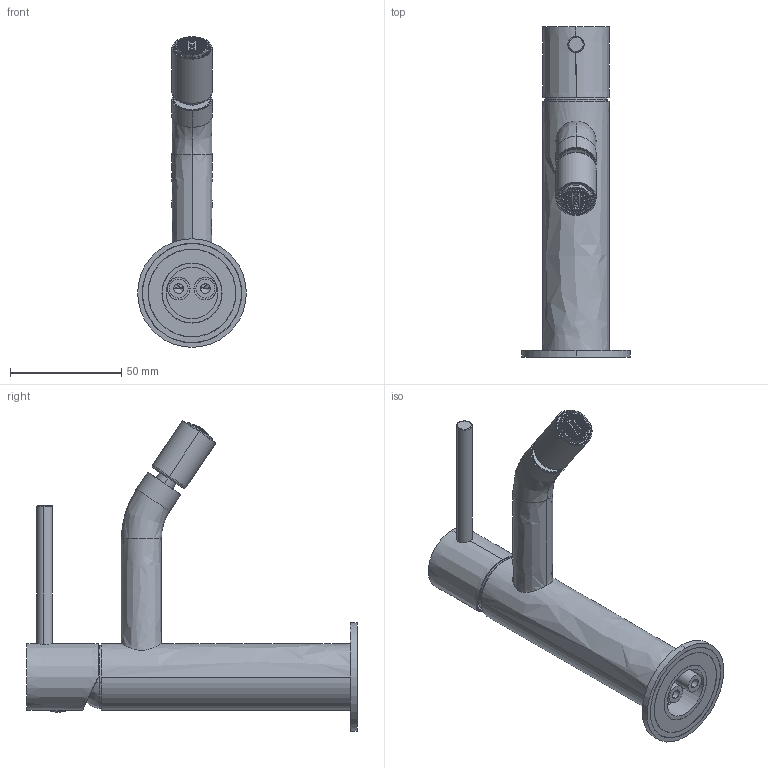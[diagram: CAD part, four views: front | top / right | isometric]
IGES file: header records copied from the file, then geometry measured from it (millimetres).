
Start section:  PTC IGES file: 69080.igs
Global section: file name: 69080.igs; native system: Creo Parametric by PTC Inc.; preprocessor: 2025443; author: carloff; organization: Unknown; date: 20261014.104103; units: millimetre
Bounding box: 48.8 x 148.5 x 139.65 mm (x, y, z)
Surface area: 61368.6 mm2 (no closed solid volume)
Topology: 0 solids, 0 shells, 3392 faces, 19960 edges, 19912 vertices
Faces by surface type: bspline 2140, revolution 1237, extrusion 15
